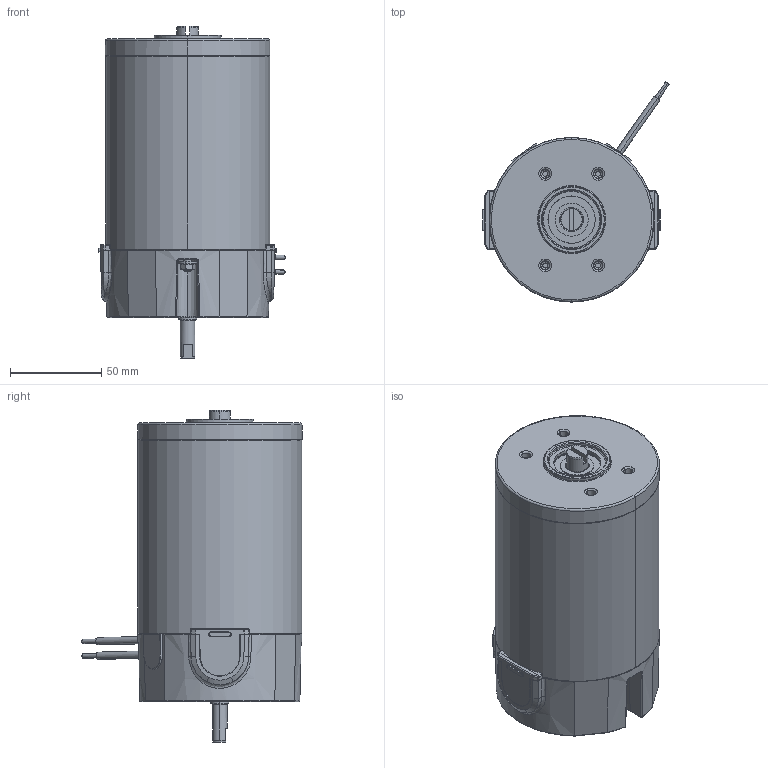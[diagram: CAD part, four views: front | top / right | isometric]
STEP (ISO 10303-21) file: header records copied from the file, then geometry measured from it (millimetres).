
FILE_DESCRIPTION (( 'STEP AP214' ), '1' );
FILE_NAME ('BRx90-50.STEP', '2021-07-14T16:32:46', ( '' ), ( '' ), 'SwSTEP 2.0', 'SolidWorks 2020', '' );
FILE_SCHEMA (( 'AUTOMOTIVE_DESIGN' ));
Length unit declared in the file: millimetre
Products named in the file (1): BRx90-50
Bounding box: 102.23 x 120.87 x 182 mm (x, y, z)
Volume: 279254 mm3; surface area: 144526.2 mm2
Topology: 20 solids, 20 shells, 1812 faces, 4221 edges, 2439 vertices
Faces by surface type: cylinder 472, plane 364, torus 353, bspline 270, cone 228, sphere 125
Entity records: 79529 total; most frequent: CARTESIAN_POINT 19744, DIRECTION 8604, ORIENTED_EDGE 8276, EDGE_CURVE 4138, AXIS2_PLACEMENT_3D 3686, VERTEX_POINT 2439, CIRCLE 2143, EDGE_LOOP 1929
